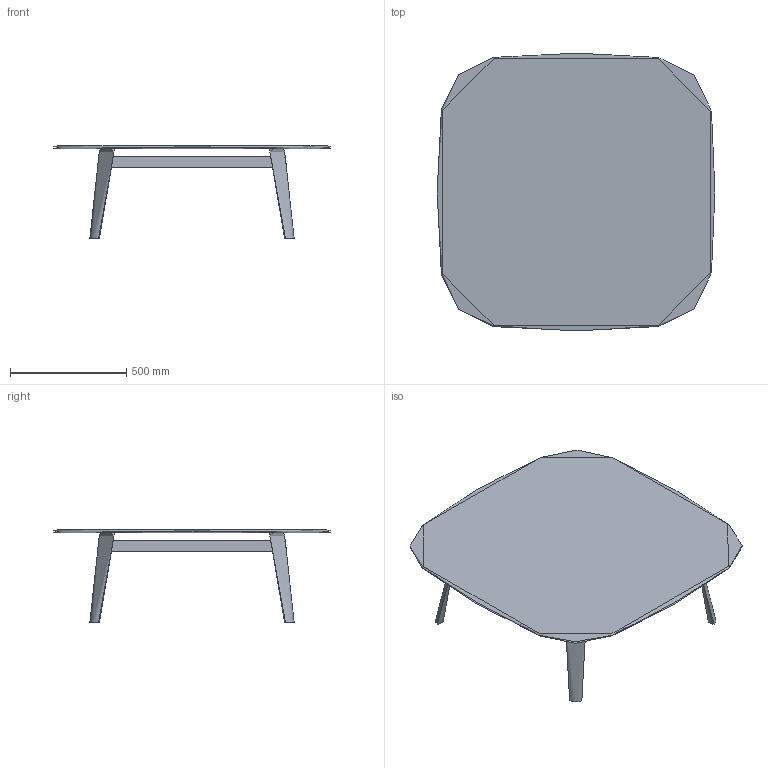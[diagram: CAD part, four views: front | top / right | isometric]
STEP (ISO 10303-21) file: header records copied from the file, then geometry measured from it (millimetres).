
FILE_DESCRIPTION(/* description */ (''),/* implementation_level */ '2;1');
FILE_NAME(/* name */ 'MAGMA_~1',/* time_stamp */ '2018-06-12T10:06:35+02:00',/* author */ (''),/* organization */ (''),/* preprocessor_version */ 'ST-DEVELOPER v16.5',/* originating_system */ '',/* authorisation */ '');
FILE_SCHEMA (('CONFIG_CONTROL_DESIGN'));
Length unit declared in the file: millimetre
Products named in the file (1): Document
Bounding box: 1196.49 x 1196.48 x 397.39 mm (x, y, z)
Volume: 23760576 mm3; surface area: 3444007.5 mm2
Topology: 9 solids, 9 shells, 66 faces, 148 edges, 94 vertices
Faces by surface type: bspline 44, plane 22
Entity records: 5152 total; most frequent: CARTESIAN_POINT 4124, ORIENTED_EDGE 272, EDGE_CURVE 136, B_SPLINE_CURVE_WITH_KNOTS 99, VERTEX_POINT 88, ADVANCED_FACE 66, FACE_OUTER_BOUND 66, EDGE_LOOP 66
